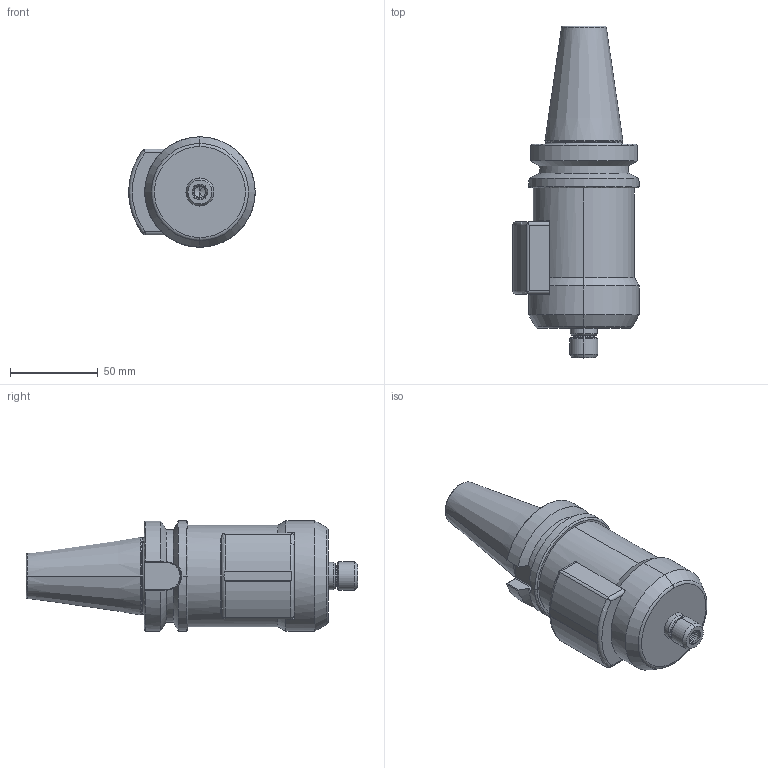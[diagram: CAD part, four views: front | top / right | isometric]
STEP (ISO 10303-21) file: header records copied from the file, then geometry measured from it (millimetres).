
FILE_DESCRIPTION (( 'STEP AP214' ), '1' );
FILE_NAME ('TJS-GJET-BT40-Detail.STEP', '2018-03-19T06:29:43', ( '' ), ( '' ), 'SwSTEP 2.0', 'SolidWorks 2015', '' );
FILE_SCHEMA (( 'AUTOMOTIVE_DESIGN' ));
Length unit declared in the file: millimetre
Products named in the file (1): TJS-GJET-BT40-Detail
Bounding box: 72.05 x 189.44 x 63 mm (x, y, z)
Volume: 370202.4 mm3; surface area: 41549.5 mm2
Topology: 1 solids, 1 shells, 155 faces, 366 edges, 218 vertices
Faces by surface type: cylinder 47, cone 45, plane 40, torus 17, bspline 4, sphere 2
Entity records: 5758 total; most frequent: CARTESIAN_POINT 2226, DIRECTION 750, ORIENTED_EDGE 720, EDGE_CURVE 360, AXIS2_PLACEMENT_3D 300, VERTEX_POINT 218, EDGE_LOOP 166, ADVANCED_FACE 155
